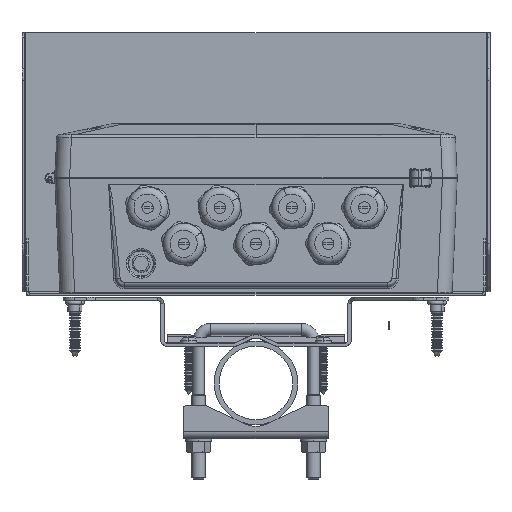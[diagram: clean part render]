
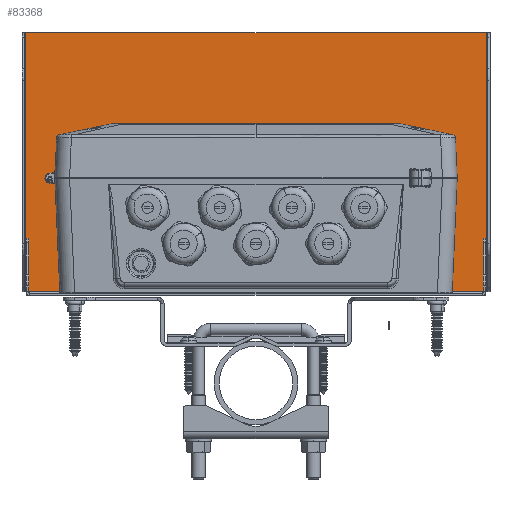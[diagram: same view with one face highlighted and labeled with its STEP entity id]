
A CAD part, front view. The second image highlights one B-rep face of the part: STEP entity #83368.
In plain terms, the highlighted planar face has unit normal (0, -1, 0).
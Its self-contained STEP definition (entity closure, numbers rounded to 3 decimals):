
#82163=DIRECTION('',(0.,0.,-1.));
#82164=VECTOR('',#82163,6.211);
#82165=CARTESIAN_POINT('',(5.522,4.783,6.24));
#82166=LINE('',#82165,#82164);
#82171=DIRECTION('',(-1.,0.,0.));
#82172=VECTOR('',#82171,11.044);
#82173=CARTESIAN_POINT('',(5.522,4.783,6.24));
#82174=LINE('',#82173,#82172);
#82175=DIRECTION('',(-1.,0.,0.));
#82176=VECTOR('',#82175,0.01);
#82177=CARTESIAN_POINT('',(5.522,4.783,0.029));
#82178=LINE('',#82177,#82176);
#82179=DIRECTION('',(-1.,0.,0.));
#82180=VECTOR('',#82179,0.01);
#82181=CARTESIAN_POINT('',(-5.512,4.783,0.029));
#82182=LINE('',#82181,#82180);
#82305=DIRECTION('',(0.,0.,1.));
#82306=VECTOR('',#82305,6.211);
#82307=CARTESIAN_POINT('',(-5.522,4.783,0.029));
#82308=LINE('',#82307,#82306);
#82805=DIRECTION('',(-1.,0.,0.));
#82806=VECTOR('',#82805,11.024);
#82807=CARTESIAN_POINT('',(5.512,4.783,0.029));
#82808=LINE('',#82807,#82806);
#82997=CARTESIAN_POINT('',(5.522,4.783,6.24));
#82999=VERTEX_POINT('',#82997);
#83048=CARTESIAN_POINT('',(5.512,4.783,0.029));
#83050=VERTEX_POINT('',#83048);
#83113=CARTESIAN_POINT('',(-5.522,4.783,0.029));
#83114=CARTESIAN_POINT('',(-5.512,4.783,0.029));
#83115=VERTEX_POINT('',#83113);
#83116=VERTEX_POINT('',#83114);
#83135=CARTESIAN_POINT('',(-5.522,4.783,
6.24));
#83136=VERTEX_POINT('',#83135);
#83155=CARTESIAN_POINT('',(5.522,4.783,0.029));
#83156=VERTEX_POINT('',#83155);
#83350=CARTESIAN_POINT('',(0.,4.783,0.));
#83351=DIRECTION('',(0.,-1.,0.));
#83352=DIRECTION('',(0.,0.,-1.));
#83353=AXIS2_PLACEMENT_3D('',#83350,#83351,#83352);
#83354=PLANE('',#83353);
#83356=ORIENTED_EDGE('',*,*,#83355,.F.);
#83357=ORIENTED_EDGE('',*,*,#83340,.T.);
#83359=ORIENTED_EDGE('',*,*,#83358,.T.);
#83361=ORIENTED_EDGE('',*,*,#83360,.T.);
#83363=ORIENTED_EDGE('',*,*,#83362,.T.);
#83365=ORIENTED_EDGE('',*,*,#83364,.T.);
#83366=EDGE_LOOP('',(#83356,#83357,#83359,#83361,#83363,#83365));
#83367=FACE_OUTER_BOUND('',#83366,.F.);
#83368=ADVANCED_FACE('',(#83367),#83354,.T.);
#83340=EDGE_CURVE('',#82999,#83156,#82166,.T.);
#83355=EDGE_CURVE('',#82999,#83136,#82174,.T.);
#83358=EDGE_CURVE('',#83156,#83050,#82178,.T.);
#83360=EDGE_CURVE('',#83050,#83116,#82808,.T.);
#83362=EDGE_CURVE('',#83116,#83115,#82182,.T.);
#83364=EDGE_CURVE('',#83115,#83136,#82308,.T.);
